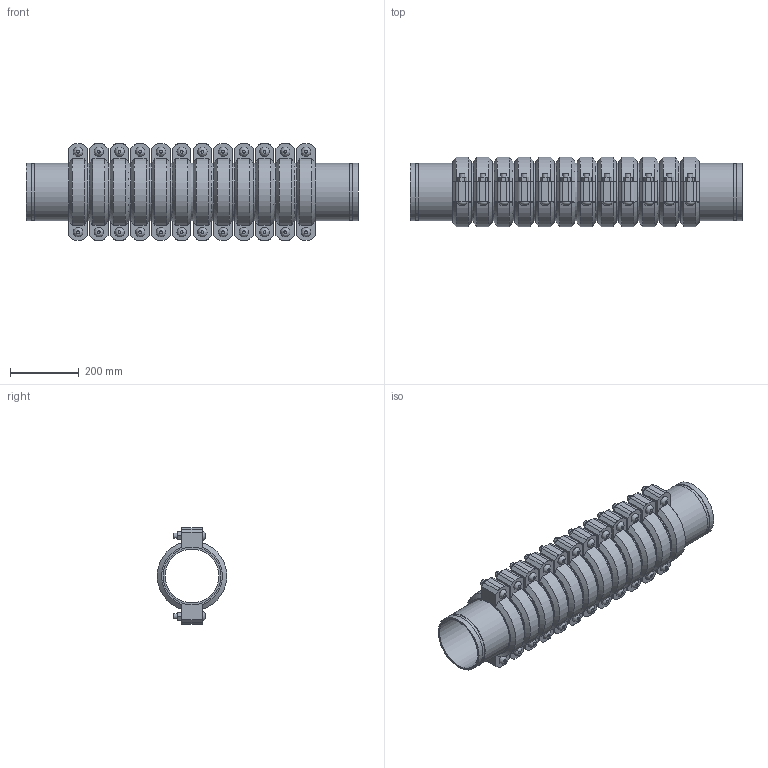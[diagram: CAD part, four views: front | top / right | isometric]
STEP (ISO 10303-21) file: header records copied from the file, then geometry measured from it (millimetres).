
FILE_DESCRIPTION(/* description */ ('VIC EXPANSION JOINT 12 COUPLINGS COMPRESSED STYLE 155 (OGS)','CAx-IF Rec.Pracs.---Representation and Presentation of Product Manufacturing Information (PMI)---4.0---2014-10-13'),/* implementation_level */ '2;1');
FILE_NAME(/* name */ 'C:\Users\kkamble\AppData\Roaming\Autodesk\ApplicationPlugins\Victaulic.Temp\A100\Victaulic_IPS_Expansion Joint_Compressed_12 Couplings_Style 155 (OGS)_6 (150).stp',/* time_stamp */ '2021-06-27T00:21:44+02:00',/* author */ ('kkamble'),/* organization */ ('Victaulic'),/* preprocessor_version */ 'ST-DEVELOPER v17.2',/* originating_system */ 'Autodesk Inventor 2019',/* authorisation */ '');
FILE_SCHEMA (('AP242_MANAGED_MODEL_BASED_3D_ENGINEERING_MIM_LF { 1 0 10303 442 1 1 4 }'));
Length unit declared in the file: inch
Products named in the file (4): 155-06.0; Nipple-06.0; Nipple-06.0_1; 075_12_Coup-06.0
Assembly tree (25 placements, depth 2):
  155-06.0
    Nipple-06.0  x2
    Nipple-06.0_1  x11
    075_12_Coup-06.0  x12
Bounding box: 969.01 x 202.46 x 281.18 mm (x, y, z)
Volume: 11465332.6 mm3; surface area: 2473495.4 mm2
Topology: 25 solids, 49 shells, 840 faces, 1986 edges, 1392 vertices
Faces by surface type: plane 510, cylinder 258, cone 48, bspline 24
Full cylindrical faces by diameter (mm): 15.875 x48, 17.424 x24, 157.15 x13, 161.925 x12, 163.957 x26, 168.275 x63
Entity records: 2922 total; most frequent: CARTESIAN_POINT 509, DIRECTION 493, ORIENTED_EDGE 386, AXIS2_PLACEMENT_3D 200, EDGE_CURVE 193, VERTEX_POINT 138, EDGE_LOOP 107, LINE 93
